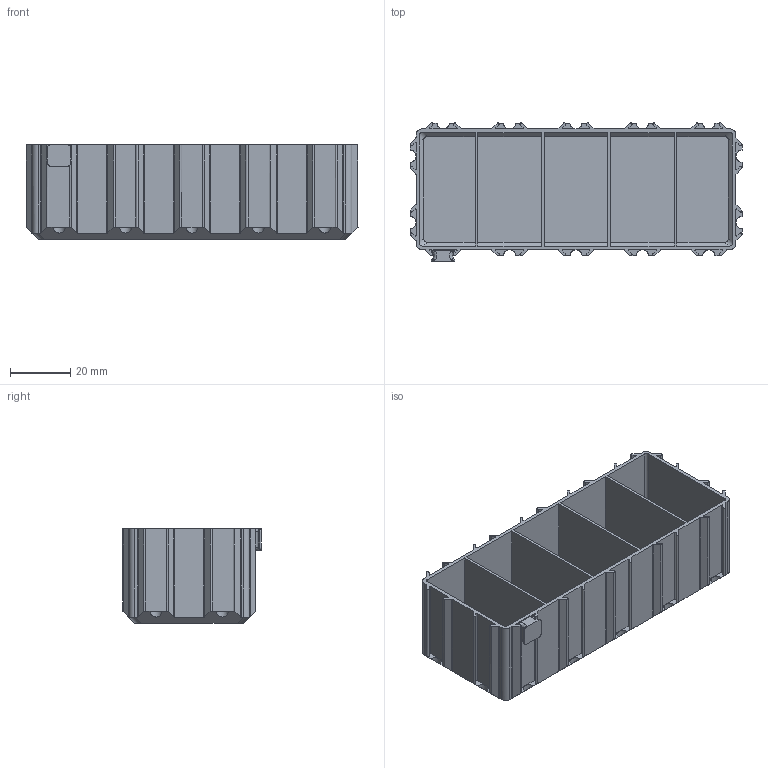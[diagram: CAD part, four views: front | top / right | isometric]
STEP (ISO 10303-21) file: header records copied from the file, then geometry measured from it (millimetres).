
FILE_DESCRIPTION(/* description */ (''),/* implementation_level */ '2;1');
FILE_NAME(/* name */ 'BOX_x05_y02_z030_txn_ty0.stp',/* time_stamp */ '2024-02-16T08:36:16+01:00',/* author */ ('ott'),/* organization */ (''),/* preprocessor_version */ 'ST-DEVELOPER v19.2',/* originating_system */ 'Autodesk Inventor 2023',/* authorisation */ '');
FILE_SCHEMA (('AUTOMOTIVE_DESIGN { 1 0 10303 214 3 1 1 }'));
Length unit declared in the file: millimetre
Products named in the file (1): BOX_x05_y02_z030_txn_ty0
Bounding box: 110 x 45.8 x 31.2 mm (x, y, z)
Volume: 20609.3 mm3; surface area: 37852.9 mm2
Topology: 2 solids, 2 shells, 291 faces, 818 edges, 536 vertices
Faces by surface type: plane 171, cylinder 116, torus 4
Entity records: 9836 total; most frequent: CARTESIAN_POINT 1734, DIRECTION 1668, ORIENTED_EDGE 1636, EDGE_CURVE 818, AXIS2_PLACEMENT_3D 566, LINE 536, VECTOR 536, VERTEX_POINT 536
